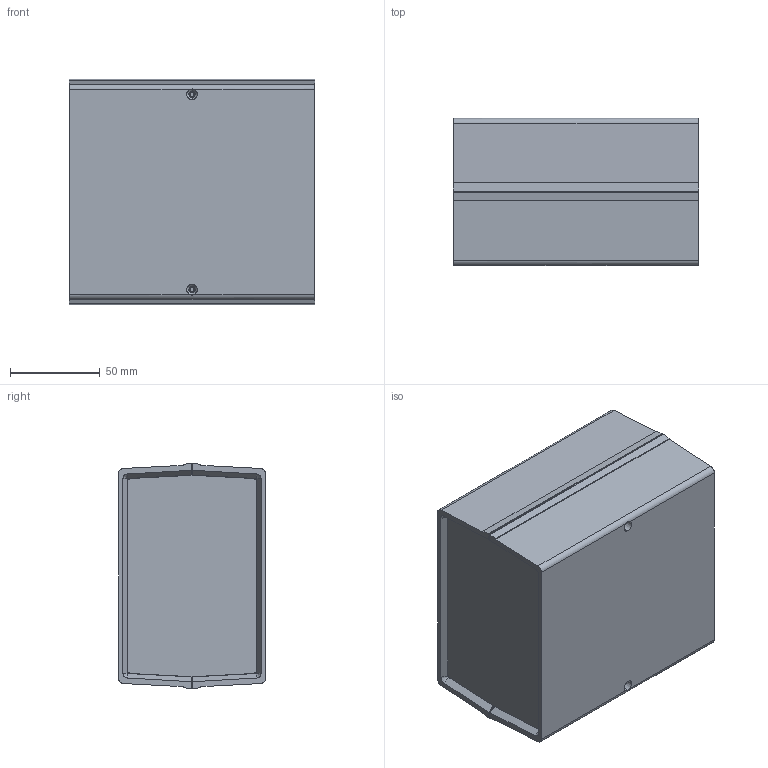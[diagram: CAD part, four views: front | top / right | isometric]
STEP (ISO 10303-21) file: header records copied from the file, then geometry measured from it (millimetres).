
FILE_DESCRIPTION (( 'STEP AP203' ), '1' );
FILE_NAME ('PT0909.STEP', '2016-11-21T07:29:55', ( '' ), ( '' ), 'SwSTEP 2.0', 'SolidWorks 2015', '' );
FILE_SCHEMA (( 'CONFIG_CONTROL_DESIGN' ));
Length unit declared in the file: millimetre
Products named in the file (4): PT0909
Assembly tree (4 placements, depth 2):
  PT0909
    PT0909
    PT0909
    PT0909  x2
Bounding box: 136.99 x 82 x 125.88 mm (x, y, z)
Volume: 215616.8 mm3; surface area: 161635.2 mm2
Topology: 4 solids, 4 shells, 265 faces, 696 edges, 454 vertices
Faces by surface type: plane 173, cone 52, cylinder 32, bspline 8
Entity records: 8048 total; most frequent: CARTESIAN_POINT 1739, ORIENTED_EDGE 1256, DIRECTION 1168, EDGE_CURVE 628, VECTOR 442, LINE 442, VERTEX_POINT 414, AXIS2_PLACEMENT_3D 363
